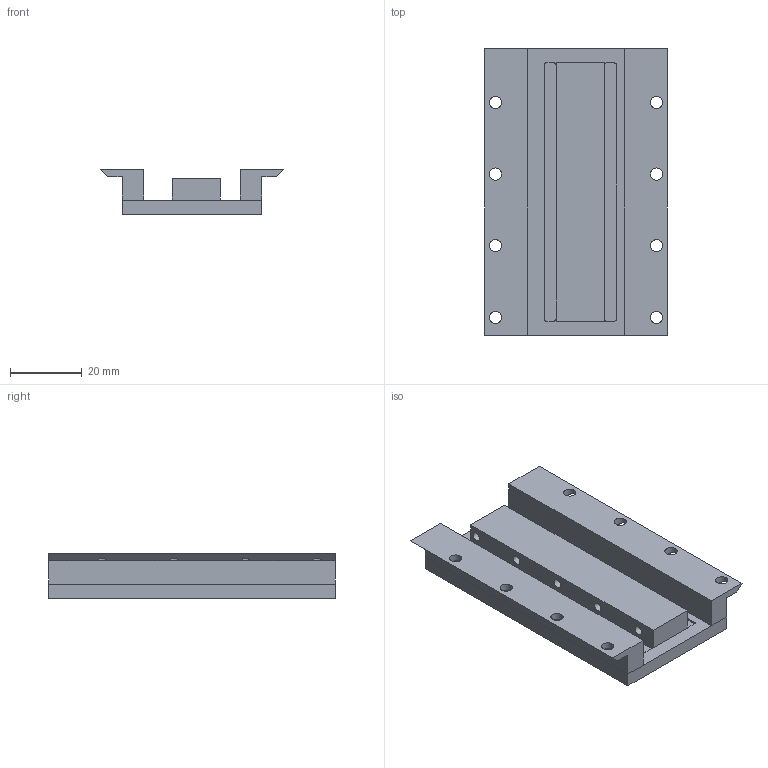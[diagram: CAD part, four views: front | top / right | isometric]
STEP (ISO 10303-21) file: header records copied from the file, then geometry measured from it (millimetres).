
FILE_DESCRIPTION(/* description */ (''),/* implementation_level */ '2;1');
FILE_NAME(/* name */ 'Split_Mount_Plate_Only.step',/* time_stamp */ '2026-09-24T08:54:43-07:00',/* author */ ('박정현'),/* organization */ (''),/* preprocessor_version */ 'ST-DEVELOPER v20.2',/* originating_system */ 'Autodesk Inventor 2027',/* authorisation */ '');
FILE_SCHEMA (('AUTOMOTIVE_DESIGN { 1 0 10303 214 3 1 1 }'));
Products named in the file (5): Split_Mount_Plate_Only; Centre_Plate; Left_Rod_Support; Right_Rod_Support; DIN 7991 - M3x10
Assembly tree (11 placements, depth 2):
  Split_Mount_Plate_Only
    Centre_Plate
    Left_Rod_Support
    Right_Rod_Support
    DIN 7991 - M3x10  x8
Bounding box: 51 x 80 x 12.5 mm (x, y, z)
Volume: 27382.6 mm3; surface area: 17249.6 mm2
Topology: 11 solids, 11 shells, 215 faces, 506 edges, 332 vertices
Faces by surface type: plane 125, cylinder 58, cone 24, torus 8
Full cylindrical faces by diameter (mm): 2.5 x18, 3 x8, 3.4 x16, 6 x8
Entity records: 3774 total; most frequent: DIRECTION 666, CARTESIAN_POINT 600, ORIENTED_EDGE 564, EDGE_CURVE 282, AXIS2_PLACEMENT_3D 251, VERTEX_POINT 185, LINE 164, VECTOR 164
